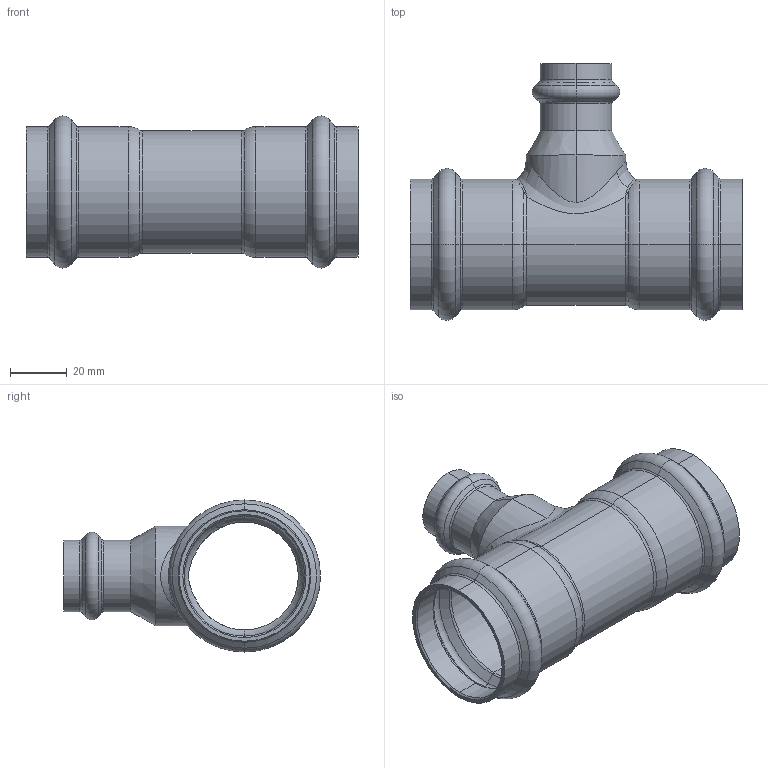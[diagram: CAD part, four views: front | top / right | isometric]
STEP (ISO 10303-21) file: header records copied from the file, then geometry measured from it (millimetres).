
FILE_DESCRIPTION (( 'STEP AP203' ), '1' );
FILE_NAME ('SP5130 Ø42-22-42.STEP', '2017-04-25T15:08:09', ( '' ), ( '' ), 'SwSTEP 2.0', 'SolidWorks 2016', '' );
FILE_SCHEMA (( 'CONFIG_CONTROL_DESIGN' ));
Length unit declared in the file: millimetre
Products named in the file (1): SP5130 Ø42-22-42
Bounding box: 117 x 90.55 x 53.6 mm (x, y, z)
Volume: 38470.9 mm3; surface area: 41606.3 mm2
Topology: 1 solids, 1 shells, 133 faces, 284 edges, 148 vertices
Faces by surface type: torus 50, cone 36, cylinder 34, bspline 10, plane 3
Entity records: 5115 total; most frequent: CARTESIAN_POINT 2184, DIRECTION 680, ORIENTED_EDGE 560, AXIS2_PLACEMENT_3D 306, EDGE_CURVE 280, CIRCLE 182, VERTEX_POINT 148, EDGE_LOOP 136
